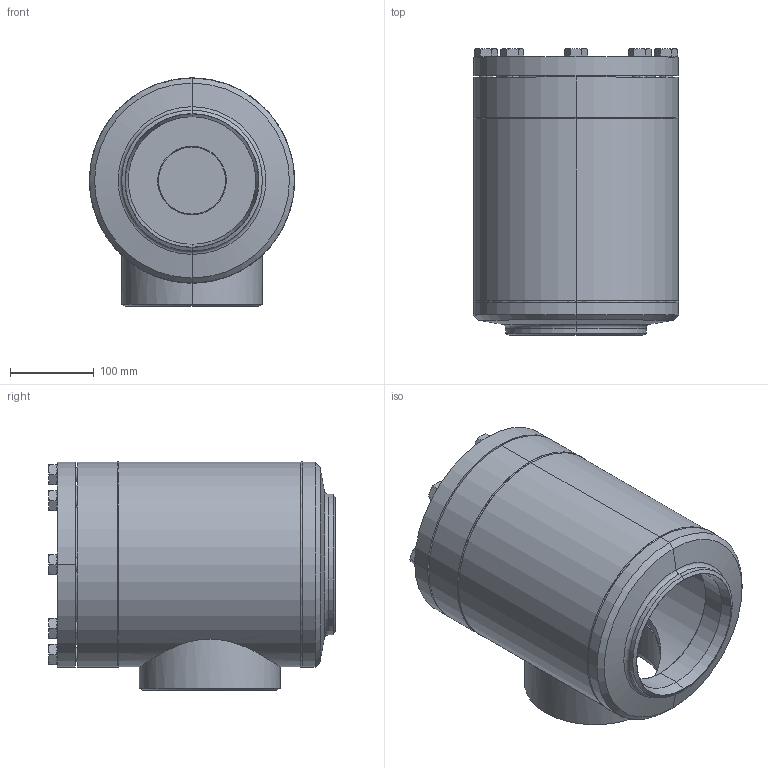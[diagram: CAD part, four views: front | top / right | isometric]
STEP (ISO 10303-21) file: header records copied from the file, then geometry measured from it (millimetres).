
FILE_DESCRIPTION (( 'STEP AP214' ), '1' );
FILE_NAME ('RV28400D21A5A0AA00_DN150_R1_PS40.STEP', '2010-06-16T10:48:18', ( 'Eckhard Grams' ), ( 'AWP Kälte Klima Armaturen GmbH' ), 'SwSTEP 2.0', 'SolidWorks 2002296', '' );
FILE_SCHEMA (( 'AUTOMOTIVE_DESIGN' ));
Length unit declared in the file: millimetre
Products named in the file (14): RV28400D21A5A0AA00_DN150_R1_PS40; Geh,kpl 16300E21-5030AA1_DN150_R1_Standard; Kopfstück16300-DN150_Standard; Gehäuse16300-DN150_Standard; Boden16300-DN150_Standard; bead Geh,kpl 16400-21-2_Standard; bead Geh,kpl 16400-21-1_Standard; Rohrstutzen-A16300a-21_R1_Standard; RV28300E21_Deck+Schr-DN150_Standard; Deckel,kpl28300E21-DN150_Standard; Scheibe f Deckel28300-DN150_Standard; Buchse f Deckel28300-DN150_Standard; bead-deck283-150_Standard; Sechskantschraube-DIN933_M16x 45
Assembly tree (20 placements, depth 4):
  RV28400D21A5A0AA00_DN150_R1_PS40
    Geh,kpl 16300E21-5030AA1_DN150_R1_Standard
      Boden16300-DN150_Standard
      bead Geh,kpl 16400-21-2_Standard
      Rohrstutzen-A16300a-21_R1_Standard
      Gehäuse16300-DN150_Standard
      Kopfstück16300-DN150_Standard
      bead Geh,kpl 16400-21-1_Standard
    RV28300E21_Deck+Schr-DN150_Standard
      Sechskantschraube-DIN933_M16x 45  x8
      Deckel,kpl28300E21-DN150_Standard
        Scheibe f Deckel28300-DN150_Standard
        Buchse f Deckel28300-DN150_Standard
        bead-deck283-150_Standard
Bounding box: 245.28 x 342.5 x 272.63 mm (x, y, z)
Volume: 5600893.3 mm3; surface area: 878728.8 mm2
Topology: 17 solids, 17 shells, 295 faces, 626 edges, 374 vertices
Faces by surface type: cone 124, plane 92, cylinder 67, bspline 10, torus 2
Entity records: 6150 total; most frequent: CARTESIAN_POINT 2779, DIRECTION 590, ORIENTED_EDGE 524, EDGE_CURVE 262, AXIS2_PLACEMENT_3D 258, VERTEX_POINT 164, EDGE_LOOP 154, CIRCLE 122
